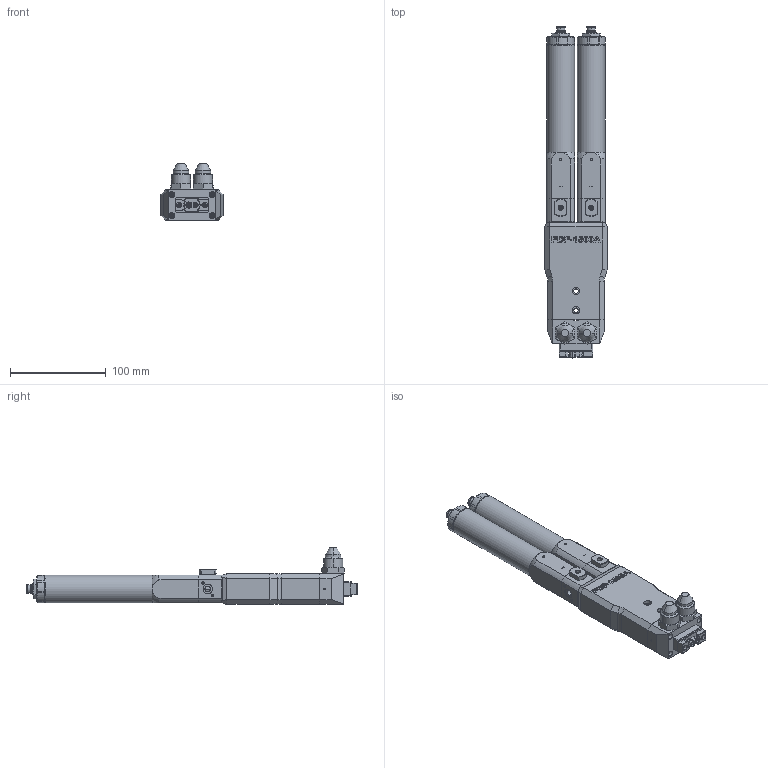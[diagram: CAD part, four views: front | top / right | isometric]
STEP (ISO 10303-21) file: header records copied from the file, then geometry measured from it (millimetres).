
FILE_DESCRIPTION (( 'STEP AP214' ), '1' );
FILE_NAME ('PDPM-1500BB.STEP', '2024-10-11T12:32:15', ( '' ), ( '' ), 'SwSTEP 2.0', 'SolidWorks 2024', '' );
FILE_SCHEMA (( 'AUTOMOTIVE_DESIGN' ));
Length unit declared in the file: millimetre
Products named in the file (1): PDPM-1500BB
Bounding box: 65 x 347 x 59.3 mm (x, y, z)
Volume: 531010.6 mm3; surface area: 128271 mm2
Topology: 13 solids, 13 shells, 1701 faces, 4328 edges, 2750 vertices
Faces by surface type: plane 822, cylinder 516, cone 325, bspline 18, torus 12, sphere 8
Full cylindrical faces by diameter (mm): 29 x2
Entity records: 63693 total; most frequent: CARTESIAN_POINT 22780, ORIENTED_EDGE 8566, DIRECTION 8392, EDGE_CURVE 4283, AXIS2_PLACEMENT_3D 2991, VERTEX_POINT 2749, LINE 2410, VECTOR 2410
